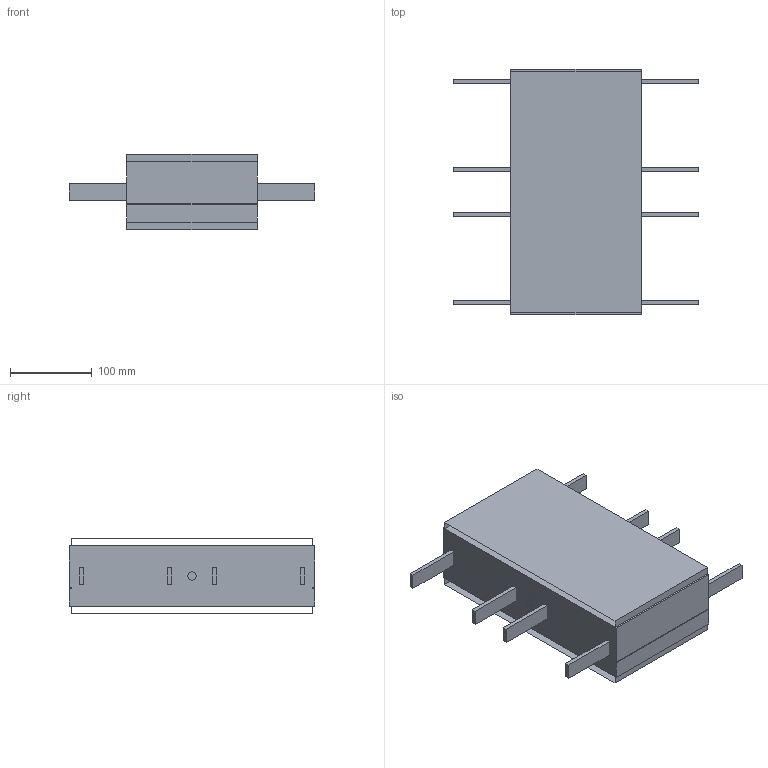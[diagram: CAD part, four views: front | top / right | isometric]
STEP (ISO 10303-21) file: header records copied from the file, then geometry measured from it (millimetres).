
FILE_DESCRIPTION(/* description */ ('Kettenmontageeinheit'),/* implementation_level */ '2;1');
FILE_NAME(/* name */ 'T:\tli0\3D-Daten für Website\F300\Kettenmontageeinheit\FBCC 300A_87307.stp',/* time_stamp */ '2026-05-28T15:28:19+02:00',/* author */ ('Tli0'),/* organization */ ('modular automation GmbH'),/* preprocessor_version */ 'ST-DEVELOPER v18.1',/* originating_system */ 'Autodesk Inventor 2021',/* authorisation */ '');
FILE_SCHEMA (('AUTOMOTIVE_DESIGN { 1 0 10303 214 3 1 1 }'));
Length unit declared in the file: millimetre
Products named in the file (1): FBCC 160A
Bounding box: 300 x 300 x 93 mm (x, y, z)
Volume: 3663200 mm3; surface area: 418778.3 mm2
Topology: 9 solids, 13 shells, 72 faces, 162 edges, 108 vertices
Faces by surface type: plane 70, cylinder 2
Full cylindrical faces by diameter (mm): 10 x2
Entity records: 2036 total; most frequent: CARTESIAN_POINT 343, DIRECTION 312, ORIENTED_EDGE 304, EDGE_CURVE 162, LINE 158, VECTOR 158, VERTEX_POINT 108, AXIS2_PLACEMENT_3D 77
